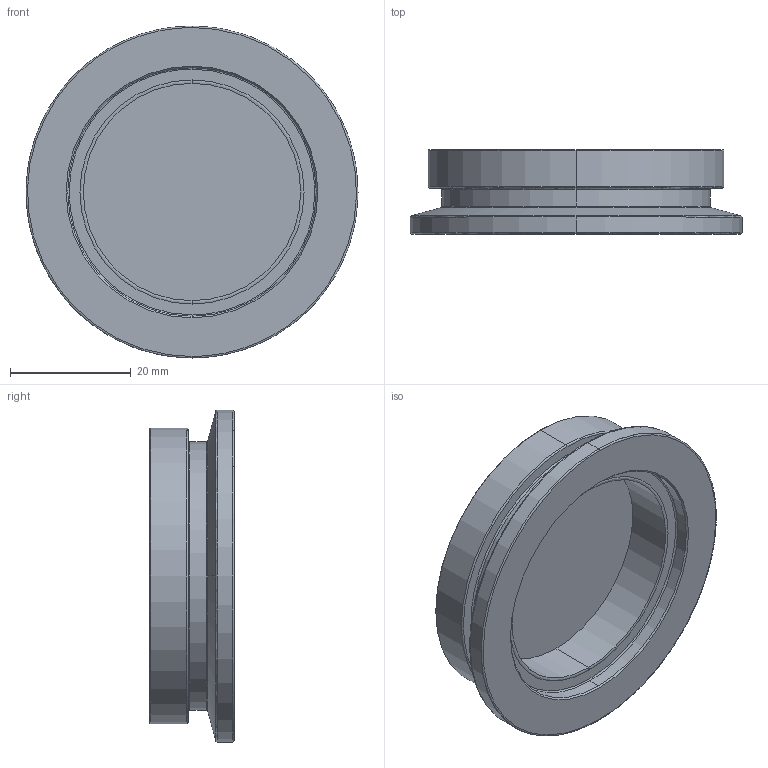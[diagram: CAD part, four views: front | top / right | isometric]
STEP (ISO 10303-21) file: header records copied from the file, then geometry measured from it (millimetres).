
FILE_DESCRIPTION (( 'STEP AP203' ), '1' );
FILE_NAME ('112663.stp', '2022-04-27T21:35:55', ( '' ), ( '' ), 'SwSTEP 2.0', 'SolidWorks 2012', '' );
FILE_SCHEMA (( 'CONFIG_CONTROL_DESIGN' ));
Length unit declared in the file: inch
Products named in the file (1): 112663
Bounding box: 55 x 13.97 x 55 mm (x, y, z)
Volume: 14148.2 mm3; surface area: 9838 mm2
Topology: 1 solids, 1 shells, 48 faces, 98 edges, 58 vertices
Faces by surface type: bspline 16, cylinder 14, cone 10, plane 8
Entity records: 1732 total; most frequent: CARTESIAN_POINT 680, DIRECTION 218, ORIENTED_EDGE 196, EDGE_CURVE 98, AXIS2_PLACEMENT_3D 97, CIRCLE 64, VERTEX_POINT 58, EDGE_LOOP 54
